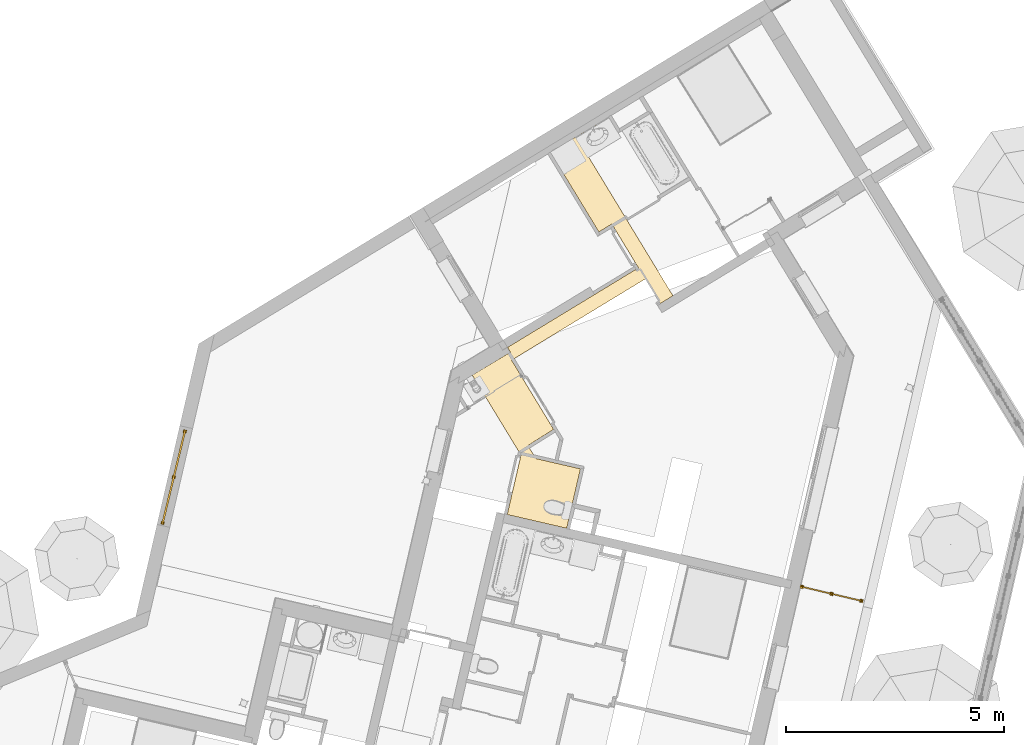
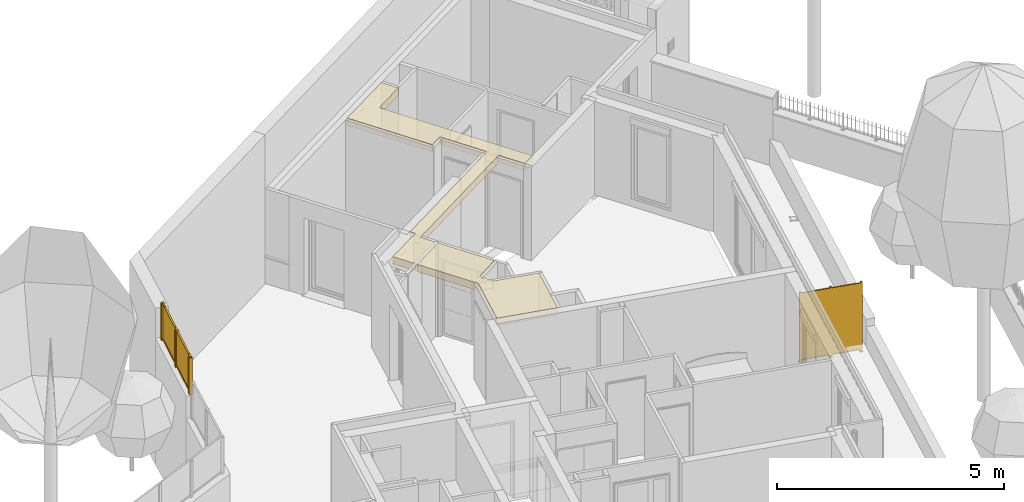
# One storey, part 77 of 119: 2 railings, 1 covering.
"""IFC2X3 building model written with IfcOpenShell, lengths in metres."""

from ifc_helpers import new_model, entity, si_unit, converted_unit, derived_unit, money_unit, direction, frame, origin_with_axes, place, context, subcontext, project, spatial, faceted_brep, material, material_list, type_object, element, save


model = new_model("IFC2X3")

# Units and contexts
model_context = context("Model", 3, precision=1e-05, world=origin_with_axes(), true_north=direction((0.0, 1.0)))
body_context = subcontext(model_context, "Body", "Model", "MODEL_VIEW")
ifc_project = project(units=[si_unit("LENGTHUNIT", "METRE"), si_unit("AREAUNIT", "SQUARE_METRE"), si_unit("VOLUMEUNIT", "CUBIC_METRE"), converted_unit("PLANEANGLEUNIT", "DEGREE", entity("IfcPlaneAngleMeasure", 0.0174532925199), si_unit("PLANEANGLEUNIT", "RADIAN"), dimensions=[0, 0, 0, 0, 0, 0, 0]), si_unit("SOLIDANGLEUNIT", "STERADIAN"), money_unit("EUR"), converted_unit("TIMEUNIT", "Year", entity("IfcTimeMeasure", 31556926.0), si_unit("TIMEUNIT", "SECOND"), dimensions=[0, 0, 1, 0, 0, 0, 0]), si_unit("MASSUNIT", "GRAM", prefix="KILO"), si_unit("THERMODYNAMICTEMPERATUREUNIT", "DEGREE_CELSIUS"), si_unit("LUMINOUSINTENSITYUNIT", "LUMEN"), si_unit("ENERGYUNIT", "JOULE", prefix="MEGA"), derived_unit("THERMALCONDUCTANCEUNIT", [(si_unit("POWERUNIT", "WATT"), 1), (si_unit("LENGTHUNIT", "METRE"), -1), (si_unit("THERMODYNAMICTEMPERATUREUNIT", "KELVIN"), -1)]), derived_unit("SPECIFICHEATCAPACITYUNIT", [(si_unit("ENERGYUNIT", "JOULE"), 1), (si_unit("MASSUNIT", "GRAM", prefix="KILO"), -1), (si_unit("THERMODYNAMICTEMPERATUREUNIT", "KELVIN"), -1)]), derived_unit("MASSDENSITYUNIT", [(si_unit("MASSUNIT", "GRAM", prefix="KILO"), 1), (si_unit("VOLUMEUNIT", "CUBIC_METRE"), -1)])], contexts=[model_context])

# Site, building, storey
site_placement = place(None, origin_with_axes())
site = spatial("IfcSite", under=ifc_project, at=site_placement, Name="Site", CompositionType="ELEMENT")
building_placement = place(site_placement, origin_with_axes())
building = spatial("IfcBuilding", under=site, at=building_placement, Name="Bâtiment", CompositionType="ELEMENT")
storey_placement = place(building_placement, origin_with_axes())
storey = spatial("IfcBuildingStorey", under=building, at=storey_placement, Name="Rez-de-chaussée", CompositionType="ELEMENT", Elevation=0.0)

# Covering
ifc_material_1 = material(Name="Finition int - Plaque de plâtre")
covering_type = type_object("IfcCoveringType", Name="Finition int - Plaque de plâtre 200", PredefinedType="CEILING")
covering_placement = place(storey_placement, frame((-6.36949290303, 17.5383064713, 2.51), z_axis=(0.0, 0.0, 1.0), x_axis=(1.0, 0.0, 0.0)))
element("IfcCovering", 1, at=covering_placement, inside=storey, type_object=covering_type, material=ifc_material_1, Name="Dalle_003", PredefinedType="CEILING", context=body_context, shape_type="Brep", body=[
    faceted_brep([(1.13202051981, -0.036435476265, -0.01), (1.10708997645, 0.00458242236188, -0.01), (1.10708997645, 0.00458242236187, -0.2), (0.90247838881, 0.341227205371, -0.2), (0.90247838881, 0.341227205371, 0.0), (1.86661794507, -1.24505906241, 0.0), (1.86661794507, -1.24505906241, -0.2), (1.13202051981, -0.036435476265, -0.2), (0.29691052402, -0.487842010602, -0.01), (0.321865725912, -0.528844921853, -0.01), (0.29691052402, -0.487842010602, -0.2), (0.0, 0.0, -0.2), (0.877418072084, 0.524934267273, -0.2), (0.809898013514, 0.63602422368, -0.2), (3.76046788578, 2.42937136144, -0.2), (3.91628467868, 2.17300803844, -0.2), (0.954605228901, 0.372909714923, -0.2), (0.866309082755, 0.518182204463, -0.2), (0.82529118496, 0.493251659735, -0.2), (0.913587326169, 0.347979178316, -0.2), (0.913587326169, 0.347979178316, -0.01), (0.954605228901, 0.372909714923, -0.01), (3.91628467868, 2.17300803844, -0.01), (3.95730258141, 2.19793857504, -0.01), (3.95730258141, 2.19793857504, -0.2), (3.96841171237, 2.20469066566, -0.2), (3.96841171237, 2.20469066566, 0.0), (0.809898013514, 0.63602422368, 0.0), (0.877418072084, 0.524934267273, 0.0), (0.0, 0.0, 0.0), (1.11757132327, -1.83623751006, 0.0), (0.802744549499, -3.20037970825, 0.0), (2.16688688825, -3.51520648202, 0.0), (2.48171366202, -2.15106428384, 0.0), (1.46329734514, -1.91602663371, 0.0), (1.27563839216, -1.61770868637, 0.0), (4.31120575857, 1.64069585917, 0.0), (4.60548635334, 1.81955846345, 0.0), (2.61000400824, 5.10269961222, 0.0), (3.34997076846, 5.55244899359, 0.0), (3.12796163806, 5.91771786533, 0.0), (1.79263219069, 5.11450173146, 0.0), (2.90475492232, 3.28474088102, 0.0), (3.20375346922, 3.46647122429, 0.0), (3.24054660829, 3.4022376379, 0.0), (3.81259475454, 2.4610539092, 0.0), (1.27563839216, -1.61770868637, -0.2), (1.0721800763, -1.76165693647, -0.2), (0.321865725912, -0.528844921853, -0.2), (1.2809040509, -1.62607940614, -0.2), (1.07356356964, -1.75566226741, -0.2), (1.0721800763, -1.76165693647, -0.01), (1.10812436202, -1.82071557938, -0.01), (1.10812436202, -1.82071557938, -0.2), (1.11757132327, -1.83623751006, -0.2), (3.80148577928, 2.45430191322, -0.01), (3.76046787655, 2.42937137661, -0.01), (3.81259475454, 2.4610539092, -0.2), (3.80148578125, 2.45430190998, -0.2), (0.866309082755, 0.518182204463, -0.01), (0.82529118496, 0.493251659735, -0.01), (3.24054660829, 3.4022376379, -0.2), (3.23408297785, 3.41352186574, -0.2), (3.52807504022, 3.59220928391, -0.2), (4.60548635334, 1.81955846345, -0.2), (4.31120575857, 1.64069585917, -0.2), (0.802744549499, -3.20037970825, -0.2), (2.16688688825, -3.51520648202, -0.2), (2.48171366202, -2.15106428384, -0.2), (1.46329734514, -1.91602663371, -0.2), (1.3064625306, -1.66670924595, -0.01), (1.2809040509, -1.62607940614, -0.01), (1.45347932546, -1.90041911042, -0.2), (1.45347932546, -1.90041911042, -0.01), (1.41722799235, -1.8427910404, -0.01), (1.41722799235, -1.8427910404, -0.2), (1.3064625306, -1.66670924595, -0.2), (3.52807503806, 3.5922092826, -0.01), (3.5031444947, 3.63322718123, -0.01), (3.50314449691, 3.63322718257, -0.2), (2.61000400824, 5.10269961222, -0.2), (3.34997076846, 5.55244899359, -0.2), (3.12796163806, 5.91771786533, -0.2), (1.79263219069, 5.11450173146, -0.2), (2.90475492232, 3.28474088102, -0.2), (3.20375346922, 3.46647122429, -0.2), (3.21021715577, 3.45518689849, -0.01), (3.23408297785, 3.41352186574, -0.01), (3.21021715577, 3.45518689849, -0.2), (1.07356356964, -1.75566226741, -0.01), (1.13057451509, -1.77663506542, -0.01), (1.13057451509, -1.77663506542, -0.2)], [[[0, 1, 2, 3, 4, 5, 6, 7]], [[8, 1, 0, 9]], [[10, 2, 1, 8]], [[3, 2, 10, 11, 12, 13, 14, 15, 16, 17, 18, 19]], [[3, 19, 20, 21, 16, 15, 22, 23, 24, 25, 26, 4]], [[27, 28, 29, 30, 31, 32, 33, 34, 35, 5, 4, 26, 36, 37, 38, 39, 40, 41, 42, 43, 44, 45]], [[5, 35, 46, 6]], [[47, 48, 7, 6, 46, 49, 50]], [[9, 0, 7, 48]], [[8, 9, 48, 47, 51, 52, 53, 54, 30, 29, 11, 10]], [[29, 28, 12, 11]], [[28, 27, 13, 12]], [[55, 56, 14, 13, 27, 45, 57, 58]], [[56, 22, 15, 14]], [[17, 16, 21, 59]], [[60, 18, 17, 59]], [[60, 20, 19, 18]], [[59, 21, 20, 60]], [[55, 23, 22, 56]], [[58, 24, 23, 55]], [[25, 24, 58, 57, 61, 62, 63, 64, 65]], [[36, 26, 25, 65]], [[31, 30, 54, 66]], [[32, 31, 66, 67]], [[33, 32, 67, 68]], [[34, 33, 68, 69]], [[70, 71, 49, 46, 35, 34, 69, 72, 73, 74, 75, 76]], [[37, 36, 65, 64]], [[77, 78, 79, 80, 38, 37, 64, 63]], [[39, 38, 80, 81]], [[40, 39, 81, 82]], [[41, 40, 82, 83]], [[42, 41, 83, 84]], [[43, 42, 84, 85]], [[86, 87, 62, 61, 44, 43, 85, 88]], [[45, 44, 61, 57]], [[50, 49, 71, 89]], [[51, 47, 50, 89]], [[70, 90, 74, 73, 52, 51, 89, 71]], [[52, 73, 72, 53]], [[54, 53, 72, 69, 68, 67, 66]], [[87, 77, 63, 62]], [[74, 90, 91, 75]], [[75, 91, 76]], [[90, 70, 76, 91]], [[86, 78, 77, 87]], [[88, 79, 78, 86]], [[80, 79, 88, 85, 84, 83, 82, 81]]]),
])

# Railings
ifc_material_2 = material(Name="Bois - Massif 01")
ifc_material_3 = material(Name="Métal - Acier")
ifc_material_4 = material(Name="Bois - Bardage")
ifc_material_list_1 = material_list([ifc_material_2, ifc_material_3, ifc_material_2, ifc_material_2, ifc_material_3, ifc_material_2, ifc_material_2, ifc_material_2, ifc_material_4, ifc_material_2, ifc_material_2, ifc_material_3, ifc_material_4, ifc_material_2])
railing_type = type_object("IfcRailingType", Name="Type de garde-corps", PredefinedType="NOTDEFINED")
railing_1_placement = place(storey_placement, frame((-12.9687102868, 16.2245457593, 3.37), z_axis=(0.0, 0.0, 1.0), x_axis=(1.0, 0.0, 0.0)))
element("IfcRailing", 2, at=railing_1_placement, inside=storey, type_object=railing_type, material=ifc_material_list_1, Name="GD/pare-vue bois", PredefinedType="NOTDEFINED", context=body_context, shape_type="Brep", body=[
    faceted_brep([(-0.0246354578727, 0.0686202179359, 0.01), (-0.0435026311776, -0.00912314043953, 0.01), (-0.0435026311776, -0.00912314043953, 0.98), (-0.0246354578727, 0.0686202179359, 0.98), (0.0342407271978, -0.0279903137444, 0.01), (0.0531079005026, 0.049753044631, 0.01), (0.0342407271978, -0.0279903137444, 0.98), (0.0531079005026, 0.049753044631, 0.98)], [[[0, 1, 2, 3]], [[4, 1, 0, 5]], [[1, 4, 6, 2]], [[3, 2, 6, 7]], [[5, 0, 3, 7]], [[4, 5, 7, 6]]]),
    faceted_brep([(0.0531079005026, 0.049753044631, 0.0), (0.0531079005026, 0.049753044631, 0.01), (0.0342407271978, -0.0279903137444, 0.01), (0.0342407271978, -0.0279903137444, 0.0), (-0.0246354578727, 0.0686202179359, 0.0), (-0.0246354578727, 0.0686202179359, 0.01), (-0.0435026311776, -0.00912314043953, 0.01), (-0.0435026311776, -0.00912314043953, 0.0)], [[[0, 1, 2, 3]], [[4, 5, 1, 0]], [[1, 5, 6, 2]], [[3, 2, 6, 7]], [[0, 3, 7, 4]], [[7, 6, 5, 4]]]),
    faceted_brep([(0.0242384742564, 0.0155981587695, 1.0), (0.0242384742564, 0.0155981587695, 0.96), (0.0313136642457, 0.0447519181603, 0.96), (0.0313136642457, 0.0447519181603, 1.0), (-0.0146332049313, 0.0250317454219, 1.0), (-0.0146332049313, 0.0250317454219, 0.96), (-0.007558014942, 0.0541855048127, 0.96), (-0.007558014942, 0.0541855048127, 1.0)], [[[0, 1, 2, 3]], [[0, 4, 5, 1]], [[1, 5, 6, 2]], [[3, 2, 6, 7]], [[4, 0, 3, 7]], [[5, 4, 7, 6]]]),
    faceted_brep([(-0.533108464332, -2.02657435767, 0.01), (-0.551975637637, -2.10431771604, 0.01), (-0.551975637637, -2.10431771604, 0.98), (-0.533108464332, -2.02657435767, 0.98), (-0.474232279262, -2.12318488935, 0.01), (-0.455365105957, -2.04544153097, 0.01), (-0.474232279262, -2.12318488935, 0.98), (-0.455365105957, -2.04544153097, 0.98)], [[[0, 1, 2, 3]], [[4, 1, 0, 5]], [[1, 4, 6, 2]], [[3, 2, 6, 7]], [[5, 0, 3, 7]], [[4, 5, 7, 6]]]),
    faceted_brep([(-0.455365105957, -2.04544153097, 0.0), (-0.455365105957, -2.04544153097, 0.01), (-0.474232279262, -2.12318488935, 0.01), (-0.474232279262, -2.12318488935, 0.0), (-0.533108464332, -2.02657435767, 0.0), (-0.533108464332, -2.02657435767, 0.01), (-0.551975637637, -2.10431771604, 0.01), (-0.551975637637, -2.10431771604, 0.0)], [[[0, 1, 2, 3]], [[4, 5, 1, 0]], [[1, 5, 6, 2]], [[3, 2, 6, 7]], [[0, 3, 7, 4]], [[7, 6, 5, 4]]]),
    faceted_brep([(-0.523106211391, -2.07016283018, 1.0), (-0.523106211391, -2.07016283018, 0.96), (-0.53018140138, -2.09931658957, 0.96), (-0.53018140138, -2.09931658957, 1.0), (-0.484234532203, -2.07959641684, 1.0), (-0.484234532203, -2.07959641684, 0.96), (-0.491309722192, -2.10875017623, 0.96), (-0.491309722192, -2.10875017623, 1.0)], [[[0, 1, 2, 3]], [[0, 4, 5, 1]], [[1, 5, 6, 2]], [[3, 2, 6, 7]], [[4, 0, 3, 7]], [[5, 4, 7, 6]]]),
    faceted_brep([(-0.0146332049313, 0.0250317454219, 1.0), (-0.0146332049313, 0.0250317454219, 0.96), (-0.523106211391, -2.07016283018, 0.96), (-0.523106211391, -2.07016283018, 1.0), (0.0242384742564, 0.0155981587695, 1.0), (0.0242384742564, 0.0155981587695, 0.96), (-0.484234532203, -2.07959641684, 0.96), (-0.484234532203, -2.07959641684, 1.0)], [[[0, 1, 2, 3]], [[0, 4, 5, 1]], [[1, 5, 6, 2]], [[3, 2, 6, 7]], [[4, 0, 3, 7]], [[5, 4, 7, 6]]]),
    faceted_brep([(-0.0146332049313, 0.0250317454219, 0.07), (-0.0146332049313, 0.0250317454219, 0.03), (-0.523106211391, -2.07016283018, 0.03), (-0.523106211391, -2.07016283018, 0.07), (0.0242384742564, 0.0155981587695, 0.07), (0.0242384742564, 0.0155981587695, 0.03), (-0.484234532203, -2.07959641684, 0.03), (-0.484234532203, -2.07959641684, 0.07)], [[[0, 1, 2, 3]], [[0, 4, 5, 1]], [[1, 5, 6, 2]], [[3, 2, 6, 7]], [[4, 0, 3, 7]], [[5, 4, 7, 6]]]),
    faceted_brep([(-0.23971594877, -1.02964073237, 0.05), (0.0145205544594, 0.0179565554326, 0.05), (0.0145205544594, 0.0179565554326, 1.0), (-0.23971594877, -1.02964073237, 1.0), (-0.00491528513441, 0.0226733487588, 0.05), (-0.259151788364, -1.02492393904, 0.05), (-0.00491528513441, 0.0226733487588, 1.0), (-0.259151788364, -1.02492393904, 1.0)], [[[0, 1, 2, 3]], [[4, 1, 0, 5]], [[6, 2, 1, 4]], [[3, 2, 6, 7]], [[0, 3, 7, 5]], [[6, 4, 5, 7]]]),
    faceted_brep([(-0.0042044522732, -0.0804018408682, 0.045), (-0.020713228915, -0.148427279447, 0.045), (-0.0498669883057, -0.141352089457, 0.045), (-0.033358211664, -0.0733266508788, 0.045), (-0.0042044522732, -0.0804018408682, 0.07), (-0.020713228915, -0.148427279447, 0.07), (-0.0255721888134, -0.147248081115, 0.07), (-0.0255721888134, -0.147248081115, 0.05), (-0.0450080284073, -0.142531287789, 0.05), (-0.0450080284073, -0.142531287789, 0.07), (-0.0498669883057, -0.141352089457, 0.07), (-0.033358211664, -0.0733266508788, 0.07), (-0.0284992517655, -0.0745058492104, 0.07), (-0.0284992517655, -0.0745058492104, 0.05), (-0.00906341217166, -0.0792226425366, 0.05), (-0.00906341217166, -0.0792226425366, 0.07)], [[[0, 1, 2, 3]], [[4, 5, 1, 0]], [[1, 5, 6, 7, 8, 9, 10, 2]], [[3, 2, 10, 11]], [[0, 3, 11, 12, 13, 14, 15, 4]], [[15, 6, 5, 4]], [[14, 7, 6, 15]], [[13, 8, 7, 14]], [[12, 9, 8, 13]], [[11, 10, 9, 12]]]),
    faceted_brep([(-0.194764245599, -0.865615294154, 0.045), (-0.211273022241, -0.933640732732, 0.045), (-0.240426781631, -0.926565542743, 0.045), (-0.22391800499, -0.858540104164, 0.045), (-0.194764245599, -0.865615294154, 0.07), (-0.211273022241, -0.933640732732, 0.07), (-0.216131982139, -0.932461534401, 0.07), (-0.216131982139, -0.932461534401, 0.05), (-0.235567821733, -0.927744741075, 0.05), (-0.235567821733, -0.927744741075, 0.07), (-0.240426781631, -0.926565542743, 0.07), (-0.22391800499, -0.858540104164, 0.07), (-0.219059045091, -0.859719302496, 0.07), (-0.219059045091, -0.859719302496, 0.05), (-0.199623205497, -0.864436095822, 0.05), (-0.199623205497, -0.864436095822, 0.07)], [[[0, 1, 2, 3]], [[4, 5, 1, 0]], [[1, 5, 6, 7, 8, 9, 10, 2]], [[3, 2, 10, 11]], [[0, 3, 11, 12, 13, 14, 15, 4]], [[15, 6, 5, 4]], [[14, 7, 6, 15]], [[13, 8, 7, 14]], [[12, 9, 8, 13]], [[11, 10, 9, 12]]]),
    faceted_brep([(-0.211273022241, -0.933640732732, 1.005), (-0.194764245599, -0.865615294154, 1.005), (-0.22391800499, -0.858540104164, 1.005), (-0.240426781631, -0.926565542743, 1.005), (-0.211273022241, -0.933640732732, 0.98), (-0.194764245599, -0.865615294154, 0.98), (-0.199623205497, -0.864436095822, 0.98), (-0.199623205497, -0.864436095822, 1.0), (-0.219059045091, -0.859719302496, 1.0), (-0.219059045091, -0.859719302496, 0.98), (-0.22391800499, -0.858540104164, 0.98), (-0.240426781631, -0.926565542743, 0.98), (-0.235567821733, -0.927744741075, 0.98), (-0.235567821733, -0.927744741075, 1.0), (-0.216131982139, -0.932461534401, 1.0), (-0.216131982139, -0.932461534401, 0.98)], [[[0, 1, 2, 3]], [[4, 5, 1, 0]], [[1, 5, 6, 7, 8, 9, 10, 2]], [[3, 2, 10, 11]], [[0, 3, 11, 12, 13, 14, 15, 4]], [[15, 6, 5, 4]], [[14, 7, 6, 15]], [[13, 8, 7, 14]], [[12, 9, 8, 13]], [[11, 10, 9, 12]]]),
    faceted_brep([(-0.020713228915, -0.148427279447, 1.005), (-0.0042044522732, -0.0804018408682, 1.005), (-0.033358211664, -0.0733266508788, 1.005), (-0.0498669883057, -0.141352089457, 1.005), (-0.020713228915, -0.148427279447, 0.98), (-0.0042044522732, -0.0804018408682, 0.98), (-0.00906341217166, -0.0792226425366, 0.98), (-0.00906341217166, -0.0792226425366, 1.0), (-0.0284992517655, -0.0745058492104, 1.0), (-0.0284992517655, -0.0745058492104, 0.98), (-0.033358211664, -0.0733266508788, 0.98), (-0.0498669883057, -0.141352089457, 0.98), (-0.0450080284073, -0.142531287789, 0.98), (-0.0450080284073, -0.142531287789, 1.0), (-0.0255721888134, -0.147248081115, 1.0), (-0.0255721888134, -0.147248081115, 0.98)], [[[0, 1, 2, 3]], [[4, 5, 1, 0]], [[1, 5, 6, 7, 8, 9, 10, 2]], [[3, 2, 10, 11]], [[0, 3, 11, 12, 13, 14, 15, 4]], [[15, 6, 5, 4]], [[14, 7, 6, 15]], [[13, 8, 7, 14]], [[12, 9, 8, 13]], [[11, 10, 9, 12]]]),
    faceted_brep([(-0.278871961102, -0.978977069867, 0.01), (-0.297739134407, -1.05672042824, 0.01), (-0.297739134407, -1.05672042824, 0.98), (-0.278871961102, -0.978977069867, 0.98), (-0.219995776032, -1.07558760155, 0.01), (-0.201128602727, -0.997844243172, 0.01), (-0.219995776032, -1.07558760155, 0.98), (-0.201128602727, -0.997844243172, 0.98)], [[[0, 1, 2, 3]], [[4, 1, 0, 5]], [[1, 4, 6, 2]], [[3, 2, 6, 7]], [[5, 0, 3, 7]], [[4, 5, 7, 6]]]),
    faceted_brep([(-0.201128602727, -0.997844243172, 0.0), (-0.201128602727, -0.997844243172, 0.01), (-0.219995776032, -1.07558760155, 0.01), (-0.219995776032, -1.07558760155, 0.0), (-0.278871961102, -0.978977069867, 0.0), (-0.278871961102, -0.978977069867, 0.01), (-0.297739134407, -1.05672042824, 0.01), (-0.297739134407, -1.05672042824, 0.0)], [[[0, 1, 2, 3]], [[4, 5, 1, 0]], [[1, 5, 6, 2]], [[3, 2, 6, 7]], [[0, 3, 7, 4]], [[7, 6, 5, 4]]]),
    faceted_brep([(-0.493952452, -2.07723802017, 0.05), (-0.23971594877, -1.02964073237, 0.05), (-0.23971594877, -1.02964073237, 1.0), (-0.493952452, -2.07723802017, 1.0), (-0.259151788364, -1.02492393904, 0.05), (-0.513388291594, -2.07252122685, 0.05), (-0.259151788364, -1.02492393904, 1.0), (-0.513388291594, -2.07252122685, 1.0)], [[[0, 1, 2, 3]], [[4, 1, 0, 5]], [[6, 2, 1, 4]], [[3, 2, 6, 7]], [[0, 3, 7, 5]], [[6, 4, 5, 7]]]),
    faceted_brep([(-0.258440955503, -1.12799912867, 0.045), (-0.274949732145, -1.19602456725, 0.045), (-0.304103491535, -1.18894937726, 0.045), (-0.287594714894, -1.12092393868, 0.045), (-0.258440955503, -1.12799912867, 0.07), (-0.274949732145, -1.19602456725, 0.07), (-0.279808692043, -1.19484536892, 0.07), (-0.279808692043, -1.19484536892, 0.05), (-0.299244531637, -1.19012857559, 0.05), (-0.299244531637, -1.19012857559, 0.07), (-0.304103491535, -1.18894937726, 0.07), (-0.287594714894, -1.12092393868, 0.07), (-0.282735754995, -1.12210313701, 0.07), (-0.282735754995, -1.12210313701, 0.05), (-0.263299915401, -1.12681993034, 0.05), (-0.263299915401, -1.12681993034, 0.07)], [[[0, 1, 2, 3]], [[4, 5, 1, 0]], [[1, 5, 6, 7, 8, 9, 10, 2]], [[3, 2, 10, 11]], [[0, 3, 11, 12, 13, 14, 15, 4]], [[15, 6, 5, 4]], [[14, 7, 6, 15]], [[13, 8, 7, 14]], [[12, 9, 8, 13]], [[11, 10, 9, 12]]]),
    faceted_brep([(-0.449000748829, -1.91321258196, 0.045), (-0.46550952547, -1.98123802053, 0.045), (-0.494663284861, -1.97416283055, 0.045), (-0.478154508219, -1.90613739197, 0.045), (-0.449000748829, -1.91321258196, 0.07), (-0.46550952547, -1.98123802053, 0.07), (-0.470368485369, -1.9800588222, 0.07), (-0.470368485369, -1.9800588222, 0.05), (-0.489804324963, -1.97534202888, 0.05), (-0.489804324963, -1.97534202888, 0.07), (-0.494663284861, -1.97416283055, 0.07), (-0.478154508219, -1.90613739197, 0.07), (-0.473295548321, -1.9073165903, 0.07), (-0.473295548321, -1.9073165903, 0.05), (-0.453859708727, -1.91203338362, 0.05), (-0.453859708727, -1.91203338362, 0.07)], [[[0, 1, 2, 3]], [[4, 5, 1, 0]], [[1, 5, 6, 7, 8, 9, 10, 2]], [[3, 2, 10, 11]], [[0, 3, 11, 12, 13, 14, 15, 4]], [[15, 6, 5, 4]], [[14, 7, 6, 15]], [[13, 8, 7, 14]], [[12, 9, 8, 13]], [[11, 10, 9, 12]]]),
    faceted_brep([(-0.46550952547, -1.98123802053, 1.005), (-0.449000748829, -1.91321258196, 1.005), (-0.478154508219, -1.90613739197, 1.005), (-0.494663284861, -1.97416283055, 1.005), (-0.46550952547, -1.98123802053, 0.98), (-0.449000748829, -1.91321258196, 0.98), (-0.453859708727, -1.91203338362, 0.98), (-0.453859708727, -1.91203338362, 1.0), (-0.473295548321, -1.9073165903, 1.0), (-0.473295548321, -1.9073165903, 0.98), (-0.478154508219, -1.90613739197, 0.98), (-0.494663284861, -1.97416283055, 0.98), (-0.489804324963, -1.97534202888, 0.98), (-0.489804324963, -1.97534202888, 1.0), (-0.470368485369, -1.9800588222, 1.0), (-0.470368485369, -1.9800588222, 0.98)], [[[0, 1, 2, 3]], [[4, 5, 1, 0]], [[1, 5, 6, 7, 8, 9, 10, 2]], [[3, 2, 10, 11]], [[0, 3, 11, 12, 13, 14, 15, 4]], [[15, 6, 5, 4]], [[14, 7, 6, 15]], [[13, 8, 7, 14]], [[12, 9, 8, 13]], [[11, 10, 9, 12]]]),
    faceted_brep([(-0.274949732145, -1.19602456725, 1.005), (-0.258440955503, -1.12799912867, 1.005), (-0.287594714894, -1.12092393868, 1.005), (-0.304103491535, -1.18894937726, 1.005), (-0.274949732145, -1.19602456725, 0.98), (-0.258440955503, -1.12799912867, 0.98), (-0.263299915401, -1.12681993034, 0.98), (-0.263299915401, -1.12681993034, 1.0), (-0.282735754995, -1.12210313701, 1.0), (-0.282735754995, -1.12210313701, 0.98), (-0.287594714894, -1.12092393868, 0.98), (-0.304103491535, -1.18894937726, 0.98), (-0.299244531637, -1.19012857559, 0.98), (-0.299244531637, -1.19012857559, 1.0), (-0.279808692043, -1.19484536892, 1.0), (-0.279808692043, -1.19484536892, 0.98)], [[[0, 1, 2, 3]], [[4, 5, 1, 0]], [[1, 5, 6, 7, 8, 9, 10, 2]], [[3, 2, 10, 11]], [[0, 3, 11, 12, 13, 14, 15, 4]], [[15, 6, 5, 4]], [[14, 7, 6, 15]], [[13, 8, 7, 14]], [[12, 9, 8, 13]], [[11, 10, 9, 12]]]),
])
ifc_material_5 = material(Name="Métal - Acier inoxidable")
ifc_material_6 = material(Name="Vitrage")
ifc_material_list_2 = material_list([ifc_material_3, ifc_material_3, ifc_material_5, ifc_material_6, ifc_material_3, ifc_material_5, ifc_material_6])
railing_2_placement = place(storey_placement, frame((1.19356929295, 12.6815783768, -0.02), z_axis=(0.0, 0.0, 1.0), x_axis=(1.0, 0.0, 0.0)))
element("IfcRailing", 3, at=railing_2_placement, inside=storey, type_object=railing_type, material=ifc_material_list_2, Name="Pare-vue acier laqué+verre dépoli H=190", PredefinedType="NOTDEFINED", context=body_context, shape_type="Brep", body=[
    faceted_brep([(0.0180559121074, 0.0111348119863, 0.01), (0.0111348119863, -0.0180559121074, 0.01), (0.0111348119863, -0.0180559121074, 1.88), (0.0180559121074, 0.0111348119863, 1.88), (0.0240745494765, 0.0148464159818, 0.01), (0.0148464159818, -0.0240745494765, 0.01), (-0.0240745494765, -0.0148464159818, 0.01), (-0.0148464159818, 0.0240745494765, 0.01), (-0.0180559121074, -0.0111348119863, 0.01), (-0.0111348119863, 0.0180559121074, 0.01), (-0.0180559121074, -0.0111348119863, 1.88), (-0.0240745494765, -0.0148464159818, 1.88), (0.0148464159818, -0.0240745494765, 1.88), (0.0240745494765, 0.0148464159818, 1.88), (-0.0148464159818, 0.0240745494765, 1.88), (-0.0111348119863, 0.0180559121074, 1.88)], [[[0, 1, 2, 3]], [[4, 5, 6, 7], [8, 1, 0, 9]], [[1, 8, 10, 2]], [[11, 12, 13, 14], [3, 2, 10, 15]], [[9, 0, 3, 15]], [[5, 4, 13, 12]], [[6, 5, 12, 11]], [[7, 6, 11, 14]], [[4, 7, 14, 13]], [[8, 9, 15, 10]]]),
    faceted_brep([(-0.0296928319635, 0.048149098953, 0.0), (-0.0296928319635, 0.048149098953, 0.01), (0.048149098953, 0.0296928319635, 0.01), (0.048149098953, 0.0296928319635, 0.0), (-0.048149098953, -0.0296928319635, 0.0), (-0.048149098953, -0.0296928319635, 0.01), (0.0296928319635, -0.048149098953, 0.01), (0.0296928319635, -0.048149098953, 0.0)], [[[0, 1, 2, 3]], [[4, 5, 1, 0]], [[1, 5, 6, 2]], [[3, 2, 6, 7]], [[0, 3, 7, 4]], [[7, 6, 5, 4]]]),
    faceted_brep([(1.38166563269, -0.312176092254, 0.01), (1.37474453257, -0.341366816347, 0.01), (1.37474453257, -0.341366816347, 1.88), (1.38166563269, -0.312176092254, 1.88), (1.38768427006, -0.308464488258, 0.01), (1.37845613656, -0.347385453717, 0.01), (1.3395351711, -0.338157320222, 0.01), (1.3487633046, -0.299236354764, 0.01), (1.34555380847, -0.334445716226, 0.01), (1.35247490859, -0.305254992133, 0.01), (1.34555380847, -0.334445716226, 1.88), (1.3395351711, -0.338157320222, 1.88), (1.37845613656, -0.347385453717, 1.88), (1.38768427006, -0.308464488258, 1.88), (1.3487633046, -0.299236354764, 1.88), (1.35247490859, -0.305254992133, 1.88)], [[[0, 1, 2, 3]], [[4, 5, 6, 7], [8, 1, 0, 9]], [[1, 8, 10, 2]], [[11, 12, 13, 14], [3, 2, 10, 15]], [[9, 0, 3, 15]], [[5, 4, 13, 12]], [[6, 5, 12, 11]], [[7, 6, 11, 14]], [[4, 7, 14, 13]], [[8, 9, 15, 10]]]),
    faceted_brep([(1.33391688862, -0.275161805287, 0.0), (1.33391688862, -0.275161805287, 0.01), (1.41175881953, -0.293618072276, 0.01), (1.41175881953, -0.293618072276, 0.0), (1.31546062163, -0.353003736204, 0.0), (1.31546062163, -0.353003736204, 0.01), (1.39330255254, -0.371460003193, 0.01), (1.39330255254, -0.371460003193, 0.0)], [[[0, 1, 2, 3]], [[4, 5, 1, 0]], [[1, 5, 6, 2]], [[3, 2, 6, 7]], [[0, 3, 7, 4]], [[7, 6, 5, 4]]]),
    faceted_brep([(0.68526541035, -0.147060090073, 0.05), (0.00346055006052, 0.0145953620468, 0.05), (0.00346055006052, 0.0145953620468, 1.85), (0.68526541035, -0.147060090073, 1.85), (0.0229210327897, 0.00998129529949, 1.83), (0.0229210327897, 0.00998129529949, 0.07), (0.665804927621, -0.142446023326, 0.07), (0.665804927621, -0.142446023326, 1.83), (-0.00346055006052, -0.0145953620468, 0.05), (0.678344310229, -0.176250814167, 0.05), (-0.00346055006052, -0.0145953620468, 1.85), (0.678344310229, -0.176250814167, 1.85), (0.0159999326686, -0.0192094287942, 0.07), (0.0159999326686, -0.0192094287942, 1.83), (0.6588838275, -0.171636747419, 0.07), (0.6588838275, -0.171636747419, 1.83)], [[[0, 1, 2, 3], [4, 5, 6, 7]], [[8, 1, 0, 9]], [[10, 2, 1, 8]], [[3, 2, 10, 11]], [[0, 3, 11, 9]], [[12, 5, 4, 13]], [[14, 6, 5, 12]], [[7, 6, 14, 15]], [[4, 7, 15, 13]], [[10, 8, 9, 11], [14, 12, 13, 15]]]),
    faceted_brep([(0.664651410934, -0.147311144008, 0.07), (0.0217675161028, 0.00511617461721, 0.07), (0.0217675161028, 0.00511617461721, 1.83), (0.664651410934, -0.147311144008, 1.83), (0.0171534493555, -0.0143443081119, 0.07), (0.660037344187, -0.166771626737, 0.07), (0.0171534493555, -0.0143443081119, 1.83), (0.660037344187, -0.166771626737, 1.83)], [[[0, 1, 2, 3]], [[4, 1, 0, 5]], [[6, 2, 1, 4]], [[3, 2, 6, 7]], [[0, 3, 7, 5]], [[6, 4, 5, 7]]]),
    faceted_brep([(0.699860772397, -0.150520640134, 0.01), (0.692939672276, -0.179711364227, 0.01), (0.692939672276, -0.179711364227, 1.88), (0.699860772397, -0.150520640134, 1.88), (0.705879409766, -0.146809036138, 0.01), (0.696651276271, -0.185730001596, 0.01), (0.657730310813, -0.176501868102, 0.01), (0.666958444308, -0.137580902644, 0.01), (0.663748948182, -0.172790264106, 0.01), (0.670670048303, -0.143599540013, 0.01), (0.663748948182, -0.172790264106, 1.88), (0.657730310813, -0.176501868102, 1.88), (0.696651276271, -0.185730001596, 1.88), (0.705879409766, -0.146809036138, 1.88), (0.666958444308, -0.137580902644, 1.88), (0.670670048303, -0.143599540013, 1.88)], [[[0, 1, 2, 3]], [[4, 5, 6, 7], [8, 1, 0, 9]], [[1, 8, 10, 2]], [[11, 12, 13, 14], [3, 2, 10, 15]], [[9, 0, 3, 15]], [[5, 4, 13, 12]], [[6, 5, 12, 11]], [[7, 6, 11, 14]], [[4, 7, 14, 13]], [[8, 9, 15, 10]]]),
    faceted_brep([(0.652112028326, -0.113506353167, 0.0), (0.652112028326, -0.113506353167, 0.01), (0.729953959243, -0.131962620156, 0.01), (0.729953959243, -0.131962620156, 0.0), (0.633655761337, -0.191348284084, 0.0), (0.633655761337, -0.191348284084, 0.01), (0.711497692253, -0.209804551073, 0.01), (0.711497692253, -0.209804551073, 0.0)], [[[0, 1, 2, 3]], [[4, 5, 1, 0]], [[1, 5, 6, 2]], [[3, 2, 6, 7]], [[0, 3, 7, 4]], [[7, 6, 5, 4]]]),
    faceted_brep([(1.36707027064, -0.308715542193, 0.05), (0.68526541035, -0.147060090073, 0.05), (0.68526541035, -0.147060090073, 1.85), (1.36707027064, -0.308715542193, 1.85), (0.704725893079, -0.151674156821, 1.83), (0.704725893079, -0.151674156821, 0.07), (1.34760978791, -0.304101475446, 0.07), (1.34760978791, -0.304101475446, 1.83), (0.678344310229, -0.176250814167, 0.05), (1.36014917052, -0.337906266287, 0.05), (0.678344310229, -0.176250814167, 1.85), (1.36014917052, -0.337906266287, 1.85), (0.697804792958, -0.180864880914, 0.07), (0.697804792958, -0.180864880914, 1.83), (1.34068868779, -0.333292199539, 0.07), (1.34068868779, -0.333292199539, 1.83)], [[[0, 1, 2, 3], [4, 5, 6, 7]], [[8, 1, 0, 9]], [[10, 2, 1, 8]], [[3, 2, 10, 11]], [[0, 3, 11, 9]], [[12, 5, 4, 13]], [[14, 6, 5, 12]], [[7, 6, 14, 15]], [[4, 7, 15, 13]], [[10, 8, 9, 11], [14, 12, 13, 15]]]),
    faceted_brep([(1.34645627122, -0.308966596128, 0.07), (0.703572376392, -0.156539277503, 0.07), (0.703572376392, -0.156539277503, 1.83), (1.34645627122, -0.308966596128, 1.83), (0.698958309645, -0.175999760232, 0.07), (1.34184220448, -0.328427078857, 0.07), (0.698958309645, -0.175999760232, 1.83), (1.34184220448, -0.328427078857, 1.83)], [[[0, 1, 2, 3]], [[4, 1, 0, 5]], [[6, 2, 1, 4]], [[3, 2, 6, 7]], [[0, 3, 7, 5]], [[6, 4, 5, 7]]]),
])

save(model, "model.ifc")
